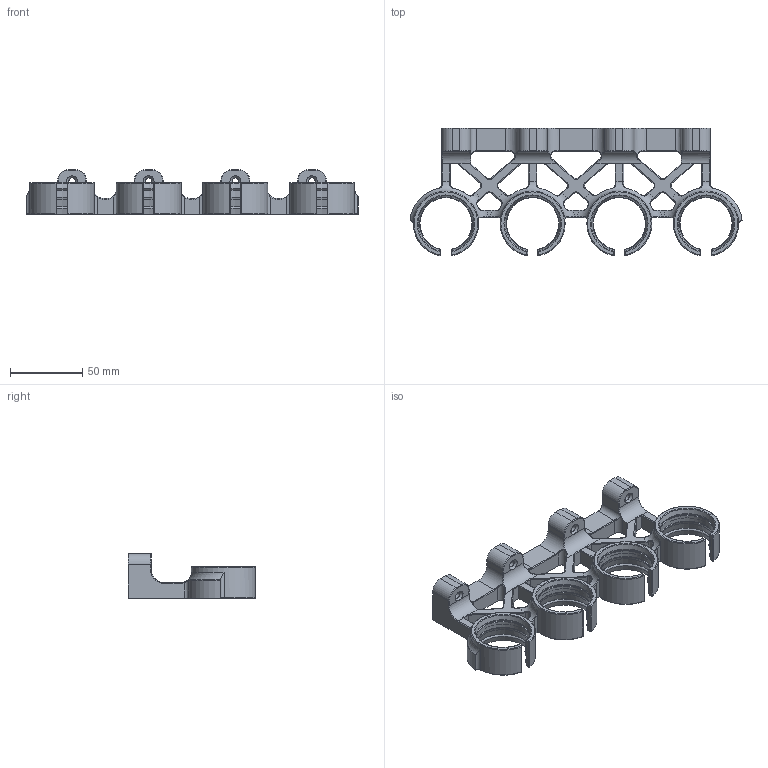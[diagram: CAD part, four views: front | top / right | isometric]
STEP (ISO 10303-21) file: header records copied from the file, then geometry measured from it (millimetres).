
FILE_DESCRIPTION(/* description */ (''),/* implementation_level */ '2;1');
FILE_NAME(/* name */ 'DysonBracket_x4 v10.step',/* time_stamp */ '2024-01-17T19:14:56Z',/* author */ (''),/* organization */ (''),/* preprocessor_version */ 'ST-DEVELOPER v20',/* originating_system */ 'Autodesk Translation Framework v12.14.0.127',/* authorisation */ '');
FILE_SCHEMA (('AUTOMOTIVE_DESIGN { 1 0 10303 214 3 1 1 }'));
Length unit declared in the file: millimetre
Products named in the file (2): DysonBracket_x4; Combined Bracket
Assembly tree (1 placements, depth 2):
  DysonBracket_x4
    Combined Bracket
Bounding box: 229.81 x 88.13 x 31 mm (x, y, z)
Volume: 135856.8 mm3; surface area: 59706.8 mm2
Topology: 5 solids, 5 shells, 607 faces, 1567 edges, 954 vertices
Faces by surface type: cylinder 209, bspline 140, plane 126, torus 76, cone 28, sphere 28
Full cylindrical faces by diameter (mm): 4.5 x4
Entity records: 23247 total; most frequent: CARTESIAN_POINT 9184, ORIENTED_EDGE 3134, DIRECTION 2723, EDGE_CURVE 1567, AXIS2_PLACEMENT_3D 1110, VERTEX_POINT 954, EDGE_LOOP 623, FACE_OUTER_BOUND 607
